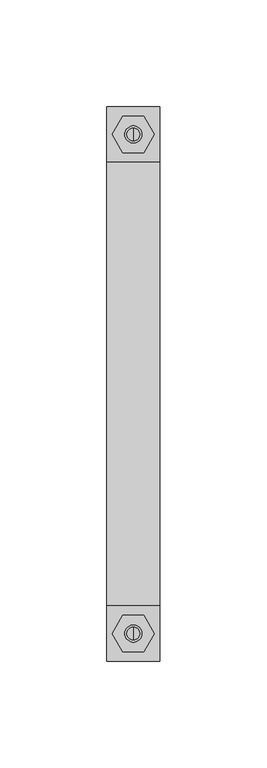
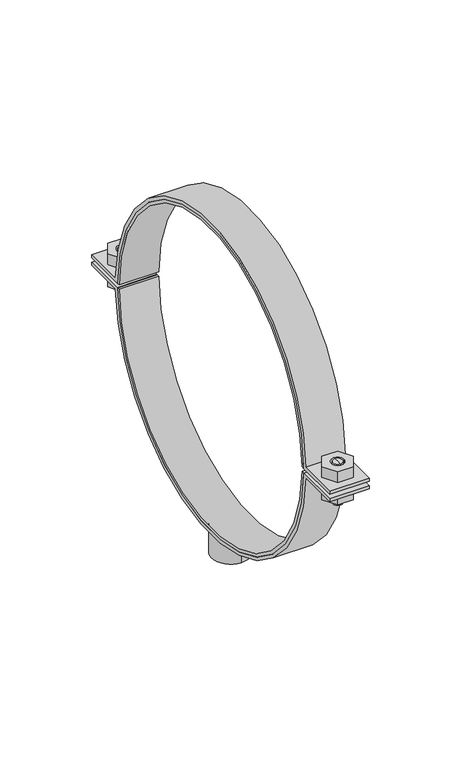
"""IFC4 building model written with IfcOpenShell, lengths in millimetres: valve geometry, Superfix DG2 Clamp Extra + : Superfix DG2 Clamp Extra +."""

from ifc_helpers import new_model, si_unit, point, frame, frame_2d, origin, origin_2d, place, context, project, spatial, polyline, circle_curve, trimmed, segment, composite_curve, outline, extrude, source, transform, mapped, element, save
from ifc_brep_helpers import plane_surface, cylinder_surface, advanced_brep


def valve_b4b668c8(model_context):
    return source(origin(), model_context, "Body", "SolidModel", [
        advanced_brep(
        [(0.0, 120.0, 333.9), (0.0, 114.0, 333.9), (0.0, 114.0, 348.5), (0.0, 120.0, 348.5), (0.0, 117.0, 333.9)],
        [
            (0, 1, circle_curve(frame((0.0, 117.0, 333.9), z_axis=(0.0, 0.0, 1.0), x_axis=(0.0, 1.0, 0.0)), 3.0)),
            (1, 2),
            (2, 3, circle_curve(frame((0.0, 117.0, 348.5), z_axis=(0.0, 0.0, -1.0), x_axis=(0.0, 1.0, 0.0)), 3.0)),
            (3, 0),
            (1, 0, circle_curve(frame((0.0, 117.0, 333.9), z_axis=(0.0, 0.0, 1.0), x_axis=(0.0, 1.0, 0.0)), 3.0)),
            (3, 2, circle_curve(frame((0.0, 117.0, 348.5), z_axis=(0.0, 0.0, -1.0), x_axis=(0.0, 1.0, 0.0)), 3.0)),
            (0, 4),
            (4, 1),
        ],
        [
            cylinder_surface(frame((0.0, 117.0, 348.2806094), z_axis=(0.0, 0.0, 1.0), x_axis=(0.0, 1.0, 0.0)), 3.0),
            plane_surface(frame((0.0, 117.0, 333.9), z_axis=(0.0, 0.0, -1.0), x_axis=(0.0, 1.0, 0.0))),
            plane_surface(frame((13.75, -130.0, 348.5), z_axis=(0.0, 0.0, 1.0), x_axis=(-1.0, 0.0, 0.0))),
        ],
        [
            (0, [[1, 2, 3, 4]]),
            (0, [[5, -4, 6, -2]]),
            (1, [[-1, 7, 8]]),
            (1, [[-5, -8, -7]]),
            (2, [[-3, -6]]),
        ],
    ),
        advanced_brep(
        [(0.0, 114.0, 361.1), (0.0, 120.0, 361.1), (0.0, 120.0, 351.5), (0.0, 114.0, 351.5), (0.0, 117.0, 361.1)],
        [
            (0, 1, circle_curve(frame((0.0, 117.0, 361.1), z_axis=(0.0, 0.0, -1.0), x_axis=(0.0, 1.0, 0.0)), 3.0)),
            (1, 2),
            (2, 3, circle_curve(frame((0.0, 117.0, 351.5), z_axis=(0.0, 0.0, 1.0), x_axis=(0.0, 1.0, 0.0)), 3.0)),
            (3, 0),
            (1, 0, circle_curve(frame((0.0, 117.0, 361.1), z_axis=(0.0, 0.0, -1.0), x_axis=(0.0, 1.0, 0.0)), 3.0)),
            (3, 2, circle_curve(frame((0.0, 117.0, 351.5), z_axis=(0.0, 0.0, 1.0), x_axis=(0.0, 1.0, 0.0)), 3.0)),
            (0, 4),
            (4, 1),
        ],
        [
            cylinder_surface(frame((0.0, 117.0, 348.2806094), z_axis=(0.0, 0.0, 1.0), x_axis=(0.0, 1.0, 0.0)), 3.0),
            plane_surface(frame((0.0, 117.0, 361.1), z_axis=(0.0, 0.0, 1.0), x_axis=(0.0, 1.0, 0.0))),
            plane_surface(frame((13.75, 130.0, 351.5), z_axis=(0.0, 0.0, -1.0), x_axis=(-1.0, 0.0, 0.0))),
        ],
        [
            (0, [[1, 2, 3, 4]]),
            (0, [[5, -4, 6, -2]]),
            (1, [[-1, 7, 8]]),
            (1, [[-5, -8, -7]]),
            (2, [[-3, -6]]),
        ],
    ),
        advanced_brep(
        [(0.0, -120.0, 361.1), (0.0, -114.0, 361.1), (0.0, -114.0, 351.5), (0.0, -120.0, 351.5), (0.0, -117.0, 361.1)],
        [
            (0, 1, circle_curve(frame((0.0, -117.0, 361.1), z_axis=(0.0, 0.0, -1.0), x_axis=(0.0, -1.0, 0.0)), 3.0)),
            (1, 2),
            (2, 3, circle_curve(frame((0.0, -117.0, 351.5), z_axis=(0.0, 0.0, 1.0), x_axis=(0.0, -1.0, 0.0)), 3.0)),
            (3, 0),
            (1, 0, circle_curve(frame((0.0, -117.0, 361.1), z_axis=(0.0, 0.0, -1.0), x_axis=(0.0, -1.0, 0.0)), 3.0)),
            (3, 2, circle_curve(frame((0.0, -117.0, 351.5), z_axis=(0.0, 0.0, 1.0), x_axis=(0.0, -1.0, 0.0)), 3.0)),
            (0, 4),
            (4, 1),
        ],
        [
            cylinder_surface(frame((0.0, -117.0, 348.2806094), z_axis=(0.0, 0.0, -1.0), x_axis=(0.0, -1.0, 0.0)), 3.0),
            plane_surface(frame((0.0, -117.0, 361.1), z_axis=(0.0, 0.0, 1.0), x_axis=(0.0, -1.0, 0.0))),
            plane_surface(frame((13.75, 130.0, 351.5), z_axis=(0.0, 0.0, -1.0), x_axis=(-1.0, 0.0, 0.0))),
        ],
        [
            (0, [[1, 2, 3, 4]]),
            (0, [[5, -4, 6, -2]]),
            (1, [[-1, 7, 8]]),
            (1, [[-5, -8, -7]]),
            (2, [[-3, -6]]),
        ],
    ),
        advanced_brep(
        [(0.0, -114.0, 333.9), (0.0, -120.0, 333.9), (0.0, -120.0, 348.5), (0.0, -114.0, 348.5), (0.0, -117.0, 333.9)],
        [
            (0, 1, circle_curve(frame((0.0, -117.0, 333.9), z_axis=(0.0, 0.0, 1.0), x_axis=(0.0, -1.0, 0.0)), 3.0)),
            (1, 2),
            (2, 3, circle_curve(frame((0.0, -117.0, 348.5), z_axis=(0.0, 0.0, -1.0), x_axis=(0.0, -1.0, 0.0)), 3.0)),
            (3, 0),
            (1, 0, circle_curve(frame((0.0, -117.0, 333.9), z_axis=(0.0, 0.0, 1.0), x_axis=(0.0, -1.0, 0.0)), 3.0)),
            (3, 2, circle_curve(frame((0.0, -117.0, 348.5), z_axis=(0.0, 0.0, -1.0), x_axis=(0.0, -1.0, 0.0)), 3.0)),
            (0, 4),
            (4, 1),
        ],
        [
            cylinder_surface(frame((0.0, -117.0, 348.2806094), z_axis=(0.0, 0.0, -1.0), x_axis=(0.0, -1.0, 0.0)), 3.0),
            plane_surface(frame((0.0, -117.0, 333.9), z_axis=(0.0, 0.0, -1.0), x_axis=(0.0, -1.0, 0.0))),
            plane_surface(frame((13.75, -130.0, 348.5), z_axis=(0.0, 0.0, 1.0), x_axis=(-1.0, 0.0, 0.0))),
        ],
        [
            (0, [[1, 2, 3, 4]]),
            (0, [[5, -4, 6, -2]]),
            (1, [[-1, 7, 8]]),
            (1, [[-5, -8, -7]]),
            (2, [[-3, -6]]),
        ],
    ),
        extrude(outline(composite_curve([segment(trimmed(circle_curve(frame_2d((0.0, 350.0)), 102.0), [point((-101.98897, 348.5))], [point((101.98897, 348.5))], True, "CARTESIAN"), True, "CONTINUOUS"), segment(polyline([(101.98897, 348.5), (130.0, 348.5), (130.0, 346.5), (103.9410891, 346.5)]), True, "CONTINUOUS"), segment(trimmed(circle_curve(frame_2d((0.0, 350.0)), 104.0), [point((103.9410891, 346.5))], [point((-103.9410891, 346.5))], False, "CARTESIAN"), True, "CONTINUOUS"), segment(polyline([(-103.9410891, 346.5), (-130.0, 346.5), (-130.0, 348.5), (-101.98897, 348.5)]), True, "CONTINUOUS")], self_intersect=False)), frame((-12.5, 0.0, 0.0), z_axis=(1.0, 0.0, 0.0), x_axis=(0.0, 1.0, 0.0)), (0.0, 0.0, 1.0), 25.0),
        extrude(outline(composite_curve([segment(trimmed(circle_curve(frame_2d((0.0, 350.0)), 102.0), [point((101.98897, 351.5))], [point((-101.98897, 351.5))], True, "CARTESIAN"), True, "CONTINUOUS"), segment(polyline([(-101.98897, 351.5), (-130.0, 351.5), (-130.0, 353.5), (-103.9410891, 353.5)]), True, "CONTINUOUS"), segment(trimmed(circle_curve(frame_2d((0.0, 350.0)), 104.0), [point((-103.9410891, 353.5))], [point((103.9410891, 353.5))], False, "CARTESIAN"), True, "CONTINUOUS"), segment(polyline([(103.9410891, 353.5), (130.0, 353.5), (130.0, 351.5), (101.98897, 351.5)]), True, "CONTINUOUS")], self_intersect=False)), frame((-12.5, 0.0, 0.0), z_axis=(1.0, 0.0, 0.0), x_axis=(0.0, 1.0, 0.0)), (0.0, 0.0, 1.0), 25.0),
        extrude(outline(polyline([(9.8149546, -117.0), (4.9074773, -125.5), (-4.9074773, -125.5), (-9.8149546, -117.0), (-4.9074773, -108.5), (4.9074773, -108.5), (9.8149546, -117.0)]), holes=[composite_curve([segment(trimmed(circle_curve(frame_2d((0.0, -117.0)), 4.0), [point((4.0, -117.0))], [point((-4.0, -117.0))], True, "CARTESIAN"), True, "CONTINUOUS"), segment(trimmed(circle_curve(frame_2d((0.0, -117.0)), 4.0), [point((-4.0, -117.0))], [point((4.0, -117.0))], True, "CARTESIAN"), True, "CONTINUOUS")], self_intersect=False)]), frame((0.0, 0.0, 353.5), z_axis=(0.0, 0.0, 1.0), x_axis=(1.0, 0.0, 0.0)), (0.0, 0.0, 1.0), 7.6),
        extrude(outline(polyline([(9.8149546, 117.0), (4.9074773, 108.5), (-4.9074773, 108.5), (-9.8149546, 117.0), (-4.9074773, 125.5), (4.9074773, 125.5), (9.8149546, 117.0)]), holes=[composite_curve([segment(trimmed(circle_curve(frame_2d((0.0, 117.0)), 4.0), [point((4.0, 117.0))], [point((-4.0, 117.0))], True, "CARTESIAN"), True, "CONTINUOUS"), segment(trimmed(circle_curve(frame_2d((0.0, 117.0)), 4.0), [point((-4.0, 117.0))], [point((4.0, 117.0))], True, "CARTESIAN"), True, "CONTINUOUS")], self_intersect=False)]), frame((0.0, 0.0, 353.5), z_axis=(0.0, 0.0, 1.0), x_axis=(1.0, 0.0, 0.0)), (0.0, 0.0, 1.0), 7.6),
        extrude(outline(polyline([(9.8149546, -117.0), (4.9074773, -125.5), (-4.9074773, -125.5), (-9.8149546, -117.0), (-4.9074773, -108.5), (4.9074773, -108.5), (9.8149546, -117.0)]), holes=[composite_curve([segment(trimmed(circle_curve(frame_2d((0.0, -117.0)), 4.0), [point((4.0, -117.0))], [point((-4.0, -117.0))], True, "CARTESIAN"), True, "CONTINUOUS"), segment(trimmed(circle_curve(frame_2d((0.0, -117.0)), 4.0), [point((-4.0, -117.0))], [point((4.0, -117.0))], True, "CARTESIAN"), True, "CONTINUOUS")], self_intersect=False)]), frame((0.0, 0.0, 338.9), z_axis=(0.0, 0.0, 1.0), x_axis=(1.0, 0.0, 0.0)), (0.0, 0.0, 1.0), 7.6),
        extrude(outline(polyline([(9.8149546, 117.0), (4.9074773, 108.5), (-4.9074773, 108.5), (-9.8149546, 117.0), (-4.9074773, 125.5), (4.9074773, 125.5), (9.8149546, 117.0)]), holes=[composite_curve([segment(trimmed(circle_curve(frame_2d((0.0, 117.0)), 4.0), [point((4.0, 117.0))], [point((-4.0, 117.0))], True, "CARTESIAN"), True, "CONTINUOUS"), segment(trimmed(circle_curve(frame_2d((0.0, 117.0)), 4.0), [point((-4.0, 117.0))], [point((4.0, 117.0))], True, "CARTESIAN"), True, "CONTINUOUS")], self_intersect=False)]), frame((0.0, 0.0, 338.9), z_axis=(0.0, 0.0, 1.0), x_axis=(1.0, 0.0, 0.0)), (0.0, 0.0, 1.0), 7.6),
        extrude(outline(composite_curve([segment(trimmed(circle_curve(origin_2d(), 12.0), [point((0.0, 12.0))], [point((0.0, -12.0))], False, "CARTESIAN"), True, "CONTINUOUS"), segment(trimmed(circle_curve(origin_2d(), 12.0), [point((0.0, -12.0))], [point((0.0, 12.0))], False, "CARTESIAN"), True, "CONTINUOUS")], self_intersect=False), holes=[composite_curve([segment(trimmed(circle_curve(origin_2d(), 8.0), [point((0.0, 8.0))], [point((0.0, -8.0))], True, "CARTESIAN"), True, "CONTINUOUS"), segment(trimmed(circle_curve(origin_2d(), 8.0), [point((0.0, -8.0))], [point((0.0, 8.0))], True, "CARTESIAN"), True, "CONTINUOUS")], self_intersect=False)]), frame((0.0, 0.0, 230.0), z_axis=(0.0, 0.0, 1.0), x_axis=(1.0, 0.0, 0.0)), (0.0, 0.0, 1.0), 18.0),
        extrude(outline(composite_curve([segment(trimmed(circle_curve(frame_2d((0.0, 350.0)), 100.0), [point((99.9887494, 351.5))], [point((-99.9887494, 351.5))], True, "CARTESIAN"), True, "CONTINUOUS"), segment(polyline([(-99.9887494, 351.5), (-101.98897, 351.5)]), True, "CONTINUOUS"), segment(trimmed(circle_curve(frame_2d((0.0, 350.0)), 102.0), [point((-101.98897, 351.5))], [point((101.98897, 351.5))], False, "CARTESIAN"), True, "CONTINUOUS"), segment(polyline([(101.98897, 351.5), (99.9887494, 351.5)]), True, "CONTINUOUS")], self_intersect=False)), frame((-12.5, 0.0, 0.0), z_axis=(1.0, 0.0, 0.0), x_axis=(0.0, 1.0, 0.0)), (0.0, 0.0, 1.0), 25.0),
        extrude(outline(composite_curve([segment(polyline([(99.9887494, 348.5), (101.98897, 348.5)]), True, "CONTINUOUS"), segment(trimmed(circle_curve(frame_2d((0.0, 350.0)), 102.0), [point((101.98897, 348.5))], [point((-101.98897, 348.5))], False, "CARTESIAN"), True, "CONTINUOUS"), segment(polyline([(-101.98897, 348.5), (-99.9887494, 348.5)]), True, "CONTINUOUS"), segment(trimmed(circle_curve(frame_2d((0.0, 350.0)), 100.0), [point((-99.9887494, 348.5))], [point((99.9887494, 348.5))], True, "CARTESIAN"), True, "CONTINUOUS")], self_intersect=False)), frame((-12.5, 0.0, 0.0), z_axis=(1.0, 0.0, 0.0), x_axis=(0.0, 1.0, 0.0)), (0.0, 0.0, 1.0), 25.0),
    ])


if __name__ == "__main__":
    model = new_model("IFC4")
    model_context = context("Model", 3, world=origin())
    ifc_project = project(units=[si_unit("LENGTHUNIT", "METRE", prefix="MILLI")], contexts=[model_context])
    site = spatial("IfcSite", under=ifc_project)
    building = spatial("IfcBuilding", under=site)
    placement = place(None, origin())
    valve_shape = valve_b4b668c8(model_context)
    element("IfcValve", 1, ObjectType="Superfix DG2 Clamp Extra + : Superfix DG2 Clamp Extra +", at=placement, inside=building, context=model_context, shape_type="MappedRepresentation", body=[
        mapped(valve_shape, transform((0.0, 0.0, 0.0), x_axis=(1.0, 0.0, 0.0), y_axis=(0.0, 1.0, 0.0), z_axis=(0.0, 0.0, 1.0))),
    ])
    save(model, "model.ifc")
